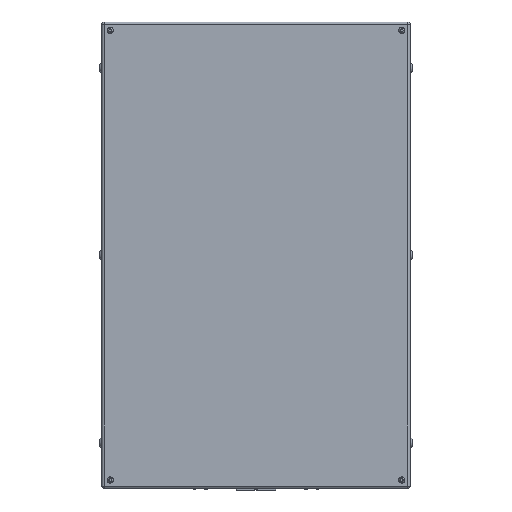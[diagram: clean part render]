
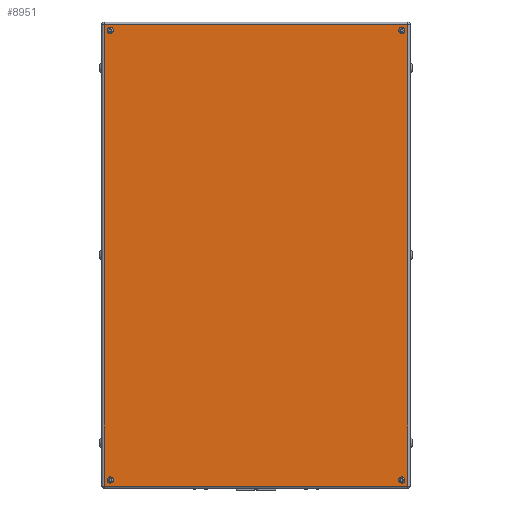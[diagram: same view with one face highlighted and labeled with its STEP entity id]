
A CAD part, front view. The second image highlights one B-rep face of the part: STEP entity #8951.
In plain terms, the highlighted planar face has unit normal (0, -1, 0).
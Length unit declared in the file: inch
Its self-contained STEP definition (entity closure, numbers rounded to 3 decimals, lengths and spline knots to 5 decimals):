
#7 = ORIENTED_EDGE ( 'NONE', *, *, #5457, .T. ) ;
#39 = DIRECTION ( 'NONE',  ( 0., -1., 0. ) ) ;
#178 = CIRCLE ( 'NONE', #6807, 0.37402 ) ;
#241 = ORIENTED_EDGE ( 'NONE', *, *, #14958, .T. ) ;
#272 = CIRCLE ( 'NONE', #8243, 0.37402 ) ;
#478 = EDGE_CURVE ( 'NONE', #6145, #8705, #272, .T. ) ;
#758 = EDGE_CURVE ( 'NONE', #4191, #2792, #2873, .T. ) ;
#836 = CARTESIAN_POINT ( 'NONE',  ( 17.5, -12., 27. ) ) ;
#989 = VERTEX_POINT ( 'NONE', #12510 ) ;
#1020 = DIRECTION ( 'NONE',  ( 0., -1., 0. ) ) ;
#1195 = VERTEX_POINT ( 'NONE', #12002 ) ;
#1457 = ORIENTED_EDGE ( 'NONE', *, *, #6375, .F. ) ;
#1689 = EDGE_CURVE ( 'NONE', #1195, #15728, #10967, .T. ) ;
#1996 = VECTOR ( 'NONE', #12243, 39.37008 ) ;
#2263 = CARTESIAN_POINT ( 'NONE',  ( 17.5, -12., -26.62598 ) ) ;
#2326 = CARTESIAN_POINT ( 'NONE',  ( -18.234, -12., 27.734 ) ) ;
#2383 = DIRECTION ( 'NONE',  ( 0., 0., -1. ) ) ;
#2405 = AXIS2_PLACEMENT_3D ( 'NONE', #11586, #12915, #3022 ) ;
#2492 = FACE_BOUND ( 'NONE', #11026, .T. ) ;
#2575 = FACE_BOUND ( 'NONE', #3937, .T. ) ;
#2753 = DIRECTION ( 'NONE',  ( 0., 0., -1. ) ) ;
#2792 = VERTEX_POINT ( 'NONE', #6506 ) ;
#2873 = CIRCLE ( 'NONE', #9534, 0.37402 ) ;
#2944 = CIRCLE ( 'NONE', #12235, 0.37402 ) ;
#3022 = DIRECTION ( 'NONE',  ( 0., 0., -1. ) ) ;
#3224 = CIRCLE ( 'NONE', #2405, 0.37402 ) ;
#3385 = ORIENTED_EDGE ( 'NONE', *, *, #5755, .T. ) ;
#3473 = ORIENTED_EDGE ( 'NONE', *, *, #8613, .F. ) ;
#3540 = CARTESIAN_POINT ( 'NONE',  ( 17.5, -12., -27. ) ) ;
#3588 = CARTESIAN_POINT ( 'NONE',  ( -17.5, -12., 27. ) ) ;
#3706 = CARTESIAN_POINT ( 'NONE',  ( -18.234, -12., 27.734 ) ) ;
#3779 = ORIENTED_EDGE ( 'NONE', *, *, #1689, .F. ) ;
#3937 = EDGE_LOOP ( 'NONE', ( #8553, #3473 ) ) ;
#4183 = EDGE_LOOP ( 'NONE', ( #8444, #5020 ) ) ;
#4191 = VERTEX_POINT ( 'NONE', #5269 ) ;
#4823 = LINE ( 'NONE', #7486, #6512 ) ;
#4965 = CARTESIAN_POINT ( 'NONE',  ( -17.5, -12., -27. ) ) ;
#4984 = ORIENTED_EDGE ( 'NONE', *, *, #15045, .T. ) ;
#5020 = ORIENTED_EDGE ( 'NONE', *, *, #6018, .F. ) ;
#5269 = CARTESIAN_POINT ( 'NONE',  ( 17.5, -12., 27.37402 ) ) ;
#5327 = FACE_BOUND ( 'NONE', #4183, .T. ) ;
#5450 = CARTESIAN_POINT ( 'NONE',  ( -17.5, -12., 27. ) ) ;
#5457 = EDGE_CURVE ( 'NONE', #14060, #14433, #13498, .T. ) ;
#5609 = DIRECTION ( 'NONE',  ( 0., -1., 0. ) ) ;
#5755 = EDGE_CURVE ( 'NONE', #14433, #989, #4823, .T. ) ;
#6018 = EDGE_CURVE ( 'NONE', #2792, #4191, #12326, .T. ) ;
#6145 = VERTEX_POINT ( 'NONE', #12946 ) ;
#6235 = CARTESIAN_POINT ( 'NONE',  ( 17.5, -12., 27. ) ) ;
#6307 = CARTESIAN_POINT ( 'NONE',  ( 18.234, -12., -27.734 ) ) ;
#6375 = EDGE_CURVE ( 'NONE', #8705, #6145, #178, .T. ) ;
#6506 = CARTESIAN_POINT ( 'NONE',  ( 17.5, -12., 26.62598 ) ) ;
#6512 = VECTOR ( 'NONE', #16073, 39.37008 ) ;
#6586 = PLANE ( 'NONE',  #6706 ) ;
#6706 = AXIS2_PLACEMENT_3D ( 'NONE', #11399, #39, #2753 ) ;
#6807 = AXIS2_PLACEMENT_3D ( 'NONE', #3588, #1020, #8935 ) ;
#7026 = CARTESIAN_POINT ( 'NONE',  ( -17.5, -12., -27.37402 ) ) ;
#7187 = CARTESIAN_POINT ( 'NONE',  ( 18.234, -12., -27.734 ) ) ;
#7486 = CARTESIAN_POINT ( 'NONE',  ( 18.234, -12., 27.734 ) ) ;
#7575 = FACE_OUTER_BOUND ( 'NONE', #11429, .T. ) ;
#7592 = VERTEX_POINT ( 'NONE', #3706 ) ;
#7665 = LINE ( 'NONE', #2326, #9027 ) ;
#7712 = DIRECTION ( 'NONE',  ( 0., 0., -1. ) ) ;
#7740 = AXIS2_PLACEMENT_3D ( 'NONE', #10791, #5609, #10630 ) ;
#8178 = VERTEX_POINT ( 'NONE', #10231 ) ;
#8243 = AXIS2_PLACEMENT_3D ( 'NONE', #5450, #9392, #7712 ) ;
#8442 = EDGE_CURVE ( 'NONE', #10961, #8178, #11719, .T. ) ;
#8444 = ORIENTED_EDGE ( 'NONE', *, *, #758, .F. ) ;
#8553 = ORIENTED_EDGE ( 'NONE', *, *, #8442, .F. ) ;
#8613 = EDGE_CURVE ( 'NONE', #8178, #10961, #2944, .T. ) ;
#8705 = VERTEX_POINT ( 'NONE', #15266 ) ;
#8717 = EDGE_CURVE ( 'NONE', #15728, #1195, #3224, .T. ) ;
#8935 = DIRECTION ( 'NONE',  ( 0., 0., -1. ) ) ;
#8951 = ADVANCED_FACE ( 'NONE', ( #5327, #2575, #2492, #12727, #7575 ), #6586, .T. ) ;
#9027 = VECTOR ( 'NONE', #12730, 39.37008 ) ;
#9392 = DIRECTION ( 'NONE',  ( 0., -1., 0. ) ) ;
#9526 = CARTESIAN_POINT ( 'NONE',  ( -18.234, -12., -27.734 ) ) ;
#9534 = AXIS2_PLACEMENT_3D ( 'NONE', #836, #13452, #11952 ) ;
#9561 = VECTOR ( 'NONE', #2383, 39.37008 ) ;
#10054 = DIRECTION ( 'NONE',  ( 0., 0., 1. ) ) ;
#10056 = DIRECTION ( 'NONE',  ( 0., 0., -1. ) ) ;
#10156 = AXIS2_PLACEMENT_3D ( 'NONE', #4965, #13970, #10056 ) ;
#10231 = CARTESIAN_POINT ( 'NONE',  ( 17.5, -12., -27.37402 ) ) ;
#10503 = AXIS2_PLACEMENT_3D ( 'NONE', #6235, #13630, #10054 ) ;
#10630 = DIRECTION ( 'NONE',  ( 0., 0., 1. ) ) ;
#10791 = CARTESIAN_POINT ( 'NONE',  ( 17.5, -12., -27. ) ) ;
#10961 = VERTEX_POINT ( 'NONE', #2263 ) ;
#10967 = CIRCLE ( 'NONE', #10156, 0.37402 ) ;
#11026 = EDGE_LOOP ( 'NONE', ( #1457, #13675 ) ) ;
#11399 = CARTESIAN_POINT ( 'NONE',  ( 0., -12., 0. ) ) ;
#11429 = EDGE_LOOP ( 'NONE', ( #3385, #241, #4984, #7 ) ) ;
#11586 = CARTESIAN_POINT ( 'NONE',  ( -17.5, -12., -27. ) ) ;
#11719 = CIRCLE ( 'NONE', #7740, 0.37402 ) ;
#11938 = EDGE_LOOP ( 'NONE', ( #3779, #15584 ) ) ;
#11952 = DIRECTION ( 'NONE',  ( 0., 0., 1. ) ) ;
#12002 = CARTESIAN_POINT ( 'NONE',  ( -17.5, -12., -26.62598 ) ) ;
#12235 = AXIS2_PLACEMENT_3D ( 'NONE', #3540, #12410, #14872 ) ;
#12243 = DIRECTION ( 'NONE',  ( 1., 0., 0. ) ) ;
#12326 = CIRCLE ( 'NONE', #10503, 0.37402 ) ;
#12410 = DIRECTION ( 'NONE',  ( 0., -1., 0. ) ) ;
#12510 = CARTESIAN_POINT ( 'NONE',  ( 18.234, -12., 27.734 ) ) ;
#12727 = FACE_BOUND ( 'NONE', #11938, .T. ) ;
#12730 = DIRECTION ( 'NONE',  ( -1., 0., 0. ) ) ;
#12915 = DIRECTION ( 'NONE',  ( 0., -1., 0. ) ) ;
#12946 = CARTESIAN_POINT ( 'NONE',  ( -17.5, -12., 26.62598 ) ) ;
#13452 = DIRECTION ( 'NONE',  ( 0., -1., 0. ) ) ;
#13498 = LINE ( 'NONE', #7187, #1996 ) ;
#13630 = DIRECTION ( 'NONE',  ( 0., -1., 0. ) ) ;
#13675 = ORIENTED_EDGE ( 'NONE', *, *, #478, .F. ) ;
#13798 = LINE ( 'NONE', #14137, #9561 ) ;
#13970 = DIRECTION ( 'NONE',  ( 0., -1., 0. ) ) ;
#14060 = VERTEX_POINT ( 'NONE', #9526 ) ;
#14137 = CARTESIAN_POINT ( 'NONE',  ( -18.234, -12., -27.734 ) ) ;
#14433 = VERTEX_POINT ( 'NONE', #6307 ) ;
#14872 = DIRECTION ( 'NONE',  ( 0., 0., 1. ) ) ;
#14958 = EDGE_CURVE ( 'NONE', #989, #7592, #7665, .T. ) ;
#15045 = EDGE_CURVE ( 'NONE', #7592, #14060, #13798, .T. ) ;
#15266 = CARTESIAN_POINT ( 'NONE',  ( -17.5, -12., 27.37402 ) ) ;
#15584 = ORIENTED_EDGE ( 'NONE', *, *, #8717, .F. ) ;
#15728 = VERTEX_POINT ( 'NONE', #7026 ) ;
#16073 = DIRECTION ( 'NONE',  ( 0., 0., 1. ) ) ;
